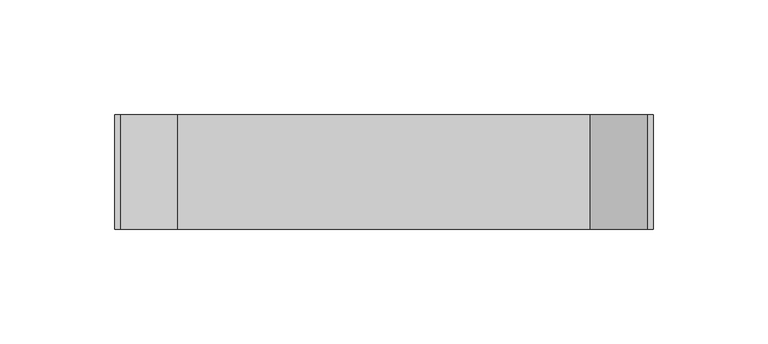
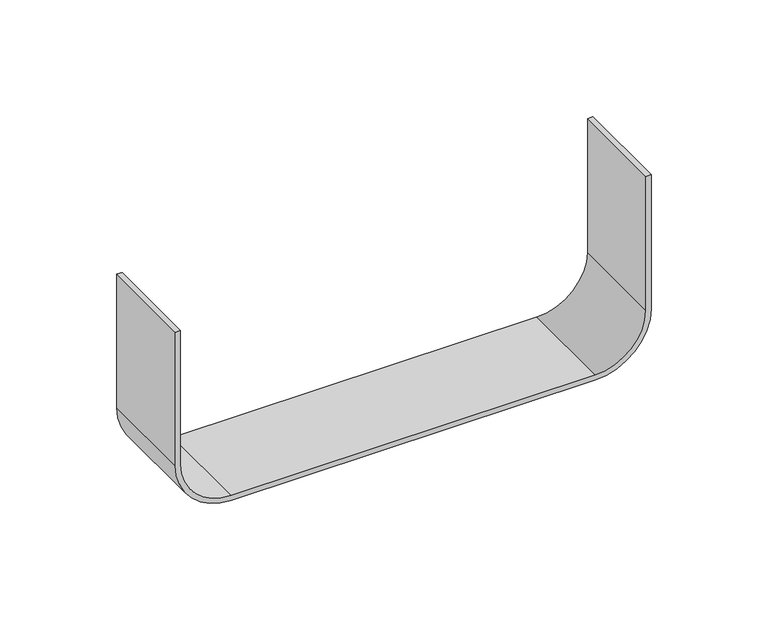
"""IFC4 building model written with IfcOpenShell, lengths in millimetres: cable carrier fitting geometry, CCT_Hyperline_FBTR-CNT Соединение лотков для оптического лотка : Соединение лотков для оптического лотка."""

from ifc_helpers import new_model, si_unit, point, frame, frame_2d, origin, place, context, project, spatial, polyline, circle_curve, trimmed, segment, composite_curve, outline, extrude, source, transform, mapped, element, save


def cable_carrier_fitting_5b634e76(model_context):
    return source(origin(), model_context, "Body", "SweptSolid", [
        extrude(outline(composite_curve([segment(polyline([(-19.96, -114.96), (50.0, -114.96), (50.0, -117.5), (-19.96, -117.5)]), True, "CONTINUOUS"), segment(trimmed(circle_curve(frame_2d((-19.96, -89.96)), 27.54), [point((-19.96, -117.5))], [point((-47.5, -89.96))], False, "CARTESIAN"), True, "CONTINUOUS"), segment(polyline([(-47.5, -89.96), (-47.5, 89.96)]), True, "CONTINUOUS"), segment(trimmed(circle_curve(frame_2d((-19.96, 89.96)), 27.54), [point((-47.5, 89.96))], [point((-19.96, 117.5))], False, "CARTESIAN"), True, "CONTINUOUS"), segment(polyline([(-19.96, 117.5), (50.0, 117.5), (50.0, 114.96), (-19.96, 114.96)]), True, "CONTINUOUS"), segment(trimmed(circle_curve(frame_2d((-19.96, 89.96)), 25.0), [point((-19.96, 114.96))], [point((-44.96, 89.96))], True, "CARTESIAN"), True, "CONTINUOUS"), segment(polyline([(-44.96, 89.96), (-44.96, -89.96)]), True, "CONTINUOUS"), segment(trimmed(circle_curve(frame_2d((-19.96, -89.96)), 25.0), [point((-44.96, -89.96))], [point((-19.96, -114.96))], True, "CARTESIAN"), True, "CONTINUOUS")], self_intersect=False)), frame((0.0, -25.0, 0.0), z_axis=(0.0, 1.0, 0.0), x_axis=(0.0, 0.0, 1.0)), (0.0, 0.0, 1.0), 50.0),
    ])


if __name__ == "__main__":
    model = new_model("IFC4")
    model_context = context("Model", 3, world=origin())
    ifc_project = project(units=[si_unit("LENGTHUNIT", "METRE", prefix="MILLI")], contexts=[model_context])
    site = spatial("IfcSite", under=ifc_project)
    building = spatial("IfcBuilding", under=site)
    placement = place(None, origin())
    cable_carrier_fitting_shape = cable_carrier_fitting_5b634e76(model_context)
    element("IfcCableCarrierFitting", 1, ObjectType="CCT_Hyperline_FBTR-CNT Соединение лотков для оптического лотка : Соединение лотков для оптического лотка", at=placement, inside=building, context=model_context, shape_type="MappedRepresentation", body=[
        mapped(cable_carrier_fitting_shape, transform((0.0, 0.0, 0.0), x_axis=(1.0, 0.0, 0.0), y_axis=(0.0, 1.0, 0.0), z_axis=(0.0, 0.0, 1.0))),
    ])
    save(model, "model.ifc")
